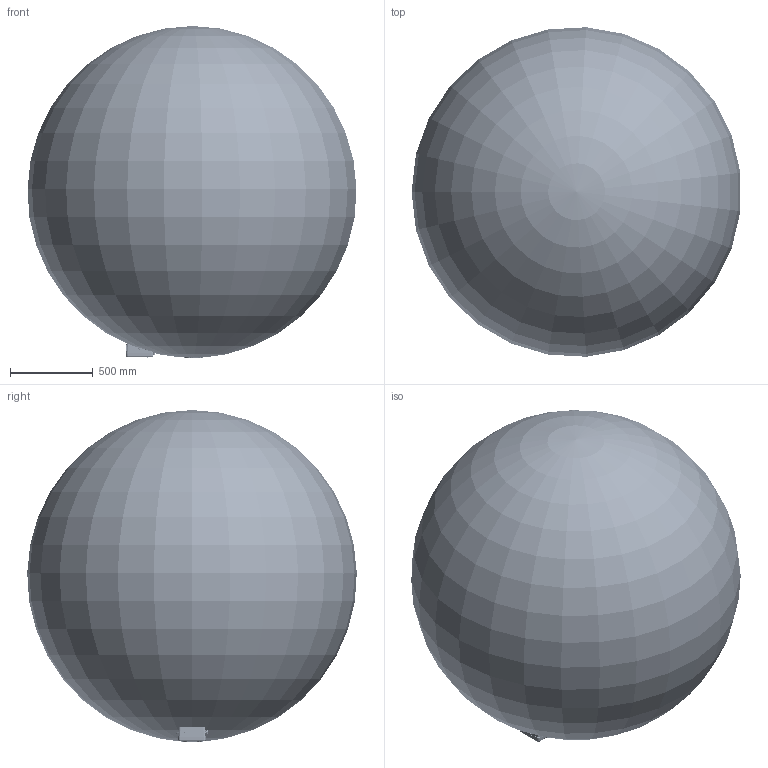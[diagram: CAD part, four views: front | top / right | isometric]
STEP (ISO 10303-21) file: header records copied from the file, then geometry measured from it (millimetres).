
FILE_DESCRIPTION(('STEP AP242'), '1');
FILE_NAME('ÑÃ-ÝÊÐ-Ð-400 c ÏÏÄ ëåâûé', '', ('UNSPECIFIED'), ('UNSPECIFIED'), 'C3D Converter', 'C3D Toolkit', '');
FILE_SCHEMA(('AP242_MANAGED_MODEL_BASED_3D_ENGINEERING_MIM_LF { 1 0 10303 442 1 1 4 }'));
Length unit declared in the file: millimetre
Bounding box: 1981.87 x 1985.23 x 2000.07 mm (x, y, z)
Volume: 4145664441.1 mm3; surface area: 14031937.1 mm2
Topology: 155 solids, 155 shells, 9449 faces, 24595 edges, 15950 vertices
Faces by surface type: plane 3138, extrusion 2895, cylinder 1873, cone 826, bspline 402, torus 284, sphere 31
Full cylindrical faces by diameter (mm): 1.95 x3, 2 x33, 2.2 x2, 2.459 x8, 2.5 x10, 2.791 x2, 3 x6, 3.1 x1, 3.2 x13, 3.242 x7, 3.3 x4, 3.45 x3, 3.459 x2, 3.688 x1, 4 x29, 4.134 x1, 4.3 x12, 4.5 x1, 4.917 x15, 5 x32, 5.5 x6, 6 x60, 6.2 x12, 6.6 x4, 6.75 x2, 7 x14, 7.8 x10, 8 x16, 8.1 x1, 8.5 x1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
Entity records: 501484 total; most frequent: CARTESIAN_POINT 213812, ORIENTED_EDGE 46450, DIRECTION 33861, EDGE_CURVE 23225, VERTEX_POINT 15866, VECTOR 13243, EDGE_LOOP 11559, B_SPLINE_CURVE_WITH_KNOTS 11144
